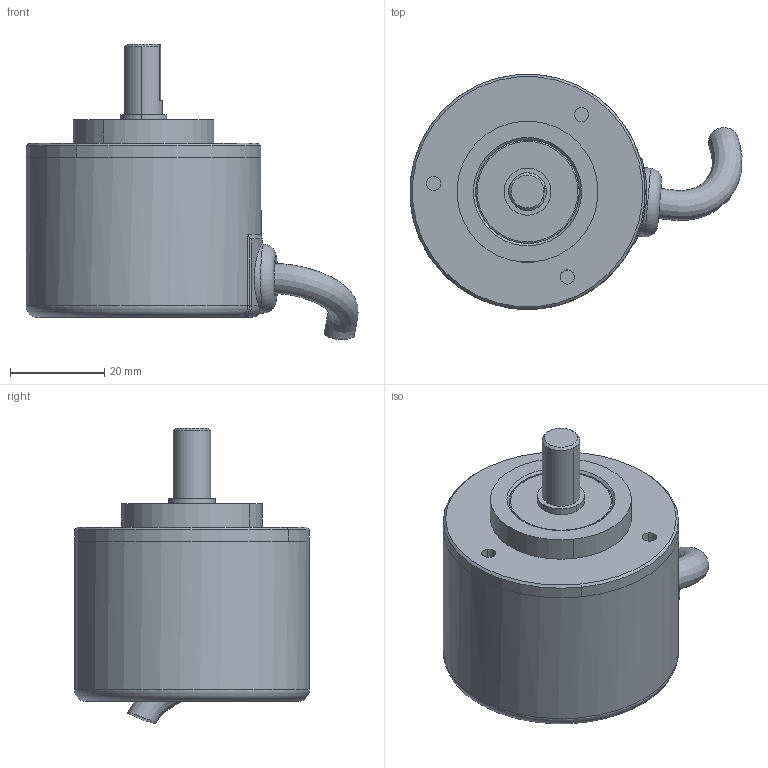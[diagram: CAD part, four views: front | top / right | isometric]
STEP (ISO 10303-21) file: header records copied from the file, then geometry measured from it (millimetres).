
FILE_DESCRIPTION(/* description */ (''),/* implementation_level */ '2;1');
FILE_NAME(/* name */ '编码器 IP54-BRT50-8mm轴_stp.stp',/* time_stamp */ '2024-04-22T18:51:47+08:00',/* author */ (''),/* organization */ (''),/* preprocessor_version */ 'ST-DEVELOPER v16.7',/* originating_system */ 'SIEMENS PLM Software NX 12.0',/* authorisation */ '');
FILE_SCHEMA (('AP203_CONFIGURATION_CONTROLLED_3D_DESIGN_OF_MECHANICAL_PARTS_AND_ASSEMBLIES_MIM_LF { 1 0 10303 403 2 1 2}'));
Length unit declared in the file: millimetre
Products named in the file (1): Li Y5970CF99cba7
Bounding box: 70.56 x 49.94 x 62.75 mm (x, y, z)
Volume: 37921.3 mm3; surface area: 25085.4 mm2
Topology: 5 solids, 5 shells, 187 faces, 489 edges, 301 vertices
Faces by surface type: cylinder 52, torus 49, plane 45, sphere 24, bspline 11, cone 6
Full cylindrical faces by diameter (mm): 7.051 x1, 14.622 x1, 47.436 x1, 50 x1
Entity records: 17286 total; most frequent: CARTESIAN_POINT 12663, ORIENTED_EDGE 900, DIRECTION 878, EDGE_CURVE 450, AXIS2_PLACEMENT_3D 406, VERTEX_POINT 296, CIRCLE 229, EDGE_LOOP 212
